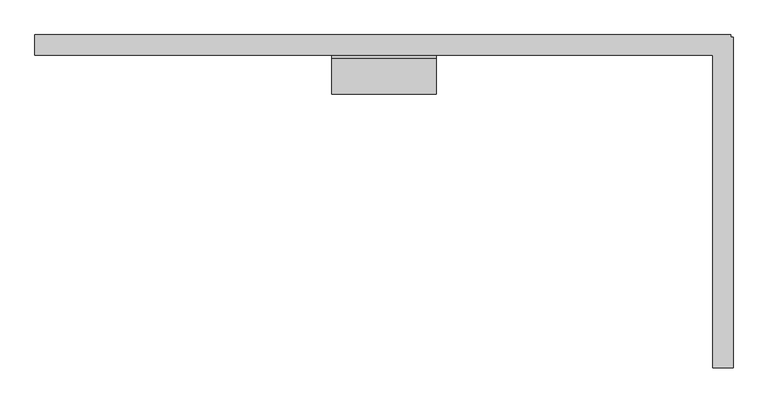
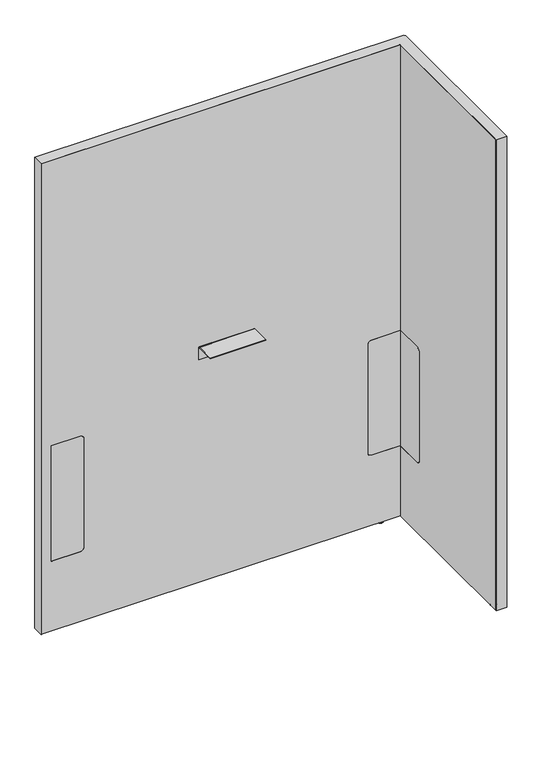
"""IFC4 building model written with IfcOpenShell, lengths in millimetres: furniture geometry, Steelcase - Answer Solution - Boundary Screen - L Return - Single Sided : 54H x 39W."""

import ifcopenshell
import ifcopenshell.guid

model = None  # the IFC model being written
_history = None  # IfcOwnerHistory: only IFC2X3 demands one
_inside = {}  # id of a spatial element -> (the spatial element, [elements in it])
_under = {}  # id of a project, library or spatial element -> (it, [spatial elements below it])
_declared = {}  # id of a project -> (the project, [libraries it declares])
_typed = {}  # id of a type object -> (the type object, [elements of that type])
_made_of = {}  # id of a material, layer set ... -> (it, [elements and type objects made of it])


def new_model(schema):
    """Start an empty IFC model of exactly this schema.

    Asked for "IFC4X3", IfcOpenShell would pick the latest addendum, in which some entities
    have other attributes; the version numbers below select the first issue.
    IFC2X3 requires an IfcOwnerHistory on every rooted entity: one is made here for all.
    """
    global model, _history
    if schema == "IFC4X3":
        model = ifcopenshell.file(schema_version=(4, 3, 0, 0))
    else:
        model = ifcopenshell.file(schema=schema)
    _inside.clear()
    _under.clear()
    _declared.clear()
    _typed.clear()
    _made_of.clear()
    _history = None
    if model.schema == "IFC2X3":
        org = make("IfcOrganization", Name="unknown")
        user = make(
            "IfcPersonAndOrganization",
            ThePerson=make("IfcPerson", FamilyName="unknown"),
            TheOrganization=org,
        )
        app = make(
            "IfcApplication",
            ApplicationDeveloper=org,
            Version="unknown",
            ApplicationFullName="unknown",
            ApplicationIdentifier="unknown",
        )
        _history = make(
            "IfcOwnerHistory",
            OwningUser=user,
            OwningApplication=app,
            ChangeAction="ADDED",
            CreationDate=0,
        )
    return model


def make(cls, **values):
    """One entity of the class cls with the attributes given. An attribute that is None is left unset."""
    return model.create_entity(
        cls, **{name: value for name, value in values.items() if value is not None}
    )


def rooted(cls, **values):
    """An entity with a GlobalId (a new one), such as an element, a storey or a relation."""
    return make(cls, GlobalId=ifcopenshell.guid.new(), OwnerHistory=_history, **values)


def si_unit(unit_type, name, prefix=None):
    """IfcSIUnit, for example si_unit("LENGTHUNIT", "METRE", prefix="MILLI")."""
    return make("IfcSIUnit", UnitType=unit_type, Prefix=prefix, Name=name)


def assignment(units):
    """IfcUnitAssignment: the units of a project."""
    return None if units is None else make("IfcUnitAssignment", Units=units)


def point(xyz):
    """IfcCartesianPoint."""
    return None if xyz is None else make("IfcCartesianPoint", Coordinates=xyz)


def direction(xyz):
    """IfcDirection."""
    return None if xyz is None else make("IfcDirection", DirectionRatios=xyz)


def frame(location, z_axis=None, x_axis=None):
    """IfcAxis2Placement3D, a coordinate frame: its origin and axes. An axis left out is left unset."""
    return make(
        "IfcAxis2Placement3D",
        Location=point(location),
        Axis=direction(z_axis),
        RefDirection=direction(x_axis),
    )


def frame_2d(location, x_axis=None):
    """IfcAxis2Placement2D, a coordinate frame in the plane: its origin and x axis."""
    return make(
        "IfcAxis2Placement2D", Location=point(location), RefDirection=direction(x_axis)
    )


def origin():
    """The frame at (0, 0, 0) with its axes left unset."""
    return frame((0.0, 0.0, 0.0))


def place(relative_to, where):
    """IfcLocalPlacement: puts the frame where relative to a parent placement (None: the world)."""
    return make(
        "IfcLocalPlacement", PlacementRelTo=relative_to, RelativePlacement=where
    )


def context(
    kind, dimensions, precision=None, world=None, true_north=None, identifier=None
):
    """IfcGeometricRepresentationContext, for example the 3D "Model" context."""
    return make(
        "IfcGeometricRepresentationContext",
        ContextIdentifier=identifier,
        ContextType=kind,
        CoordinateSpaceDimension=dimensions,
        Precision=precision,
        WorldCoordinateSystem=world,
        TrueNorth=true_north,
    )


def project(units=None, contexts=None):
    """IfcProject with its units and contexts."""
    return rooted(
        "IfcProject",
        Name="project",
        RepresentationContexts=contexts,
        UnitsInContext=assignment(units),
    )


def spatial(cls, under=None, at=None, **own):
    """A site, building, storey or space (cls), placed at a placement, below another one or the project."""
    s = rooted(cls, ObjectPlacement=at, **own)
    if under is not None:
        _under.setdefault(under.id(), (under, []))[1].append(s)
    return s


def polyline(points):
    """IfcPolyline through the points."""
    return make("IfcPolyline", Points=[point(p) for p in points])


def circle_curve(where, radius):
    """IfcCircle in the frame where."""
    return make("IfcCircle", Position=where, Radius=radius)


def ellipse_curve(where, semi_axis1, semi_axis2):
    """IfcEllipse in the frame where."""
    return make(
        "IfcEllipse", Position=where, SemiAxis1=semi_axis1, SemiAxis2=semi_axis2
    )


def trimmed(basis, trim1, trim2, sense, master):
    """IfcTrimmedCurve: the piece of a basis curve between two trims."""
    return make(
        "IfcTrimmedCurve",
        BasisCurve=basis,
        Trim1=trim1,
        Trim2=trim2,
        SenseAgreement=sense,
        MasterRepresentation=master,
    )


def segment(curve, same_sense, transition):
    """IfcCompositeCurveSegment."""
    return make(
        "IfcCompositeCurveSegment",
        Transition=transition,
        SameSense=same_sense,
        ParentCurve=curve,
    )


def composite_curve(segments, self_intersect=None):
    """IfcCompositeCurve: segments joined end to end."""
    return make("IfcCompositeCurve", Segments=segments, SelfIntersect=self_intersect)


def outline(outer, holes=None, kind="AREA"):
    """IfcArbitraryClosedProfileDef: a profile drawn as a closed curve; with holes, ...WithVoids."""
    if holes is None:
        return make("IfcArbitraryClosedProfileDef", ProfileType=kind, OuterCurve=outer)
    return make(
        "IfcArbitraryProfileDefWithVoids",
        ProfileType=kind,
        OuterCurve=outer,
        InnerCurves=holes,
    )


def extrude(swept, where, along, depth):
    """IfcExtrudedAreaSolid: the profile swept, set in the frame where, extruded along a direction by depth."""
    return make(
        "IfcExtrudedAreaSolid",
        SweptArea=swept,
        Position=where,
        ExtrudedDirection=direction(along),
        Depth=depth,
    )


def faces_of(points, faces, orient=None, outer=None):
    """IfcFace entities. A face is a list of loops; a loop is a list of indices into points, from 0.

    orient and outer hold one flag for each loop. By default every Orientation is true, the
    first loop of a face is its IfcFaceOuterBound and the others are IfcFaceBound.
    """
    made = []
    for i, loops in enumerate(faces):
        bounds = []
        for j, loop in enumerate(loops):
            is_outer = j == 0 if outer is None else outer[i][j]
            bounds.append(
                make(
                    "IfcFaceOuterBound" if is_outer else "IfcFaceBound",
                    Bound=make("IfcPolyLoop", Polygon=[points[k] for k in loop]),
                    Orientation=True if orient is None else orient[i][j],
                )
            )
        made.append(make("IfcFace", Bounds=bounds))
    return made


def faceted_brep(points, faces, orient=None, outer=None, voids=None):
    """IfcFacetedBrep: a solid bounded by flat faces; with voids (closed shells), ...WithVoids."""
    shared = [point(p) for p in points]
    hull = make("IfcClosedShell", CfsFaces=faces_of(shared, faces, orient, outer))
    if voids is None:
        return make("IfcFacetedBrep", Outer=hull)
    return make(
        "IfcFacetedBrepWithVoids",
        Outer=hull,
        Voids=[
            make(cls, CfsFaces=faces_of(shared, fs, o, b)) for cls, fs, o, b in voids
        ],
    )


def shape(context_of_items, identifier, shape_type, items):
    """IfcShapeRepresentation: the items that make up one representation, for example the "Body"."""
    return make(
        "IfcShapeRepresentation",
        ContextOfItems=context_of_items,
        RepresentationIdentifier=identifier,
        RepresentationType=shape_type,
        Items=items,
    )


def source(mapping_origin, context_of_items, identifier, shape_type, items):
    """IfcRepresentationMap: a shape defined once, which mapped items show again and again."""
    return make(
        "IfcRepresentationMap",
        MappingOrigin=mapping_origin,
        MappedRepresentation=shape(context_of_items, identifier, shape_type, items),
    )


def transform(
    local_origin,
    x_axis=None,
    y_axis=None,
    z_axis=None,
    scale=None,
    scale2=None,
    scale3=None,
    uniform=True,
):
    """IfcCartesianTransformationOperator3D, or its non-uniform kind. x_axis, y_axis, z_axis: its Axis1, 2, 3."""
    if uniform:
        return make(
            "IfcCartesianTransformationOperator3D",
            Axis1=direction(x_axis),
            Axis2=direction(y_axis),
            LocalOrigin=point(local_origin),
            Scale=scale,
            Axis3=direction(z_axis),
        )
    return make(
        "IfcCartesianTransformationOperator3DnonUniform",
        Axis1=direction(x_axis),
        Axis2=direction(y_axis),
        LocalOrigin=point(local_origin),
        Scale=scale,
        Axis3=direction(z_axis),
        Scale2=scale2,
        Scale3=scale3,
    )


def mapped(mapping_source, mapping_target):
    """IfcMappedItem: shows the shape of a source again, moved by a transform."""
    return make(
        "IfcMappedItem", MappingSource=mapping_source, MappingTarget=mapping_target
    )


def made_of(thing, what):
    """Note that an element or type object is made of a material, layer set ...; save() writes the relation."""
    if what is not None:
        _made_of.setdefault(what.id(), (what, []))[1].append(thing)
    return thing


def element(
    cls,
    number,
    at=None,
    inside=None,
    cuts=None,
    type_object=None,
    material=None,
    context=None,
    identifier="Body",
    shape_type=None,
    held_by="IfcProductDefinitionShape",
    body=None,
    shapes=None,
    **own,
):
    """One element of the class cls, such as IfcWall. Its Tag is "e" and its number.

    at: its placement. inside: the storey or other place that contains it. cuts: it is an
    opening in that element (IfcRelVoidsElement). A single representation is given by context,
    identifier, shape_type and body (its items); several are given by shapes. held_by: the class
    of the entity that holds the representations. save() writes the other relations.
    """
    e = rooted(cls, Tag="e%d" % number, ObjectPlacement=at, **own)
    if body is not None:
        shapes = [shape(context, identifier, shape_type, body)]
    if shapes is not None:
        e.Representation = make(held_by, Representations=shapes)
    if inside is not None:
        _inside.setdefault(inside.id(), (inside, []))[1].append(e)
    if cuts is not None:
        rooted(
            "IfcRelVoidsElement", RelatingBuildingElement=cuts, RelatedOpeningElement=e
        )
    if type_object is not None:
        _typed.setdefault(type_object.id(), (type_object, []))[1].append(e)
    return made_of(e, material)


def aggregate(whole, parts):
    """IfcRelAggregates: a whole, such as a stair, and the parts it consists of."""
    return rooted("IfcRelAggregates", RelatingObject=whole, RelatedObjects=parts)


def save(model, path):
    """Write the relations noted so far, then the file.

    IfcRelAggregates (storeys below a building ...), IfcRelContainedInSpatialStructure (elements
    in a storey), IfcRelDefinesByType, IfcRelAssociatesMaterial and IfcRelDeclares: one each for
    every whole, place, type object, material and project.
    """
    for whole, parts in _under.values():
        aggregate(whole, parts)
    for where, things in _inside.values():
        rooted(
            "IfcRelContainedInSpatialStructure",
            RelatedElements=things,
            RelatingStructure=where,
        )
    for kind, things in _typed.values():
        rooted("IfcRelDefinesByType", RelatedObjects=things, RelatingType=kind)
    for what, things in _made_of.values():
        rooted("IfcRelAssociatesMaterial", RelatedObjects=things, RelatingMaterial=what)
    for by, libraries in _declared.values():
        rooted("IfcRelDeclares", RelatingContext=by, RelatedDefinitions=libraries)
    model.write(path)


def plane_surface(at):
    """IfcPlane: the flat surface through the origin of the frame at, square to its z axis."""
    return make("IfcPlane", Position=at)


def cylinder_surface(at, radius):
    """IfcCylindricalSurface: all points at the distance radius from the z axis of the frame at."""
    return make("IfcCylindricalSurface", Position=at, Radius=radius)


def revolved_surface(curve, axis_point, axis_direction):
    """IfcSurfaceOfRevolution: the curve turned about the line through axis_point along axis_direction."""
    return make(
        "IfcSurfaceOfRevolution",
        SweptCurve=make("IfcArbitraryOpenProfileDef", ProfileType="CURVE", Curve=curve),
        AxisPosition=make("IfcAxis1Placement", Location=point(axis_point), Axis=direction(axis_direction)),
    )


def advanced_brep(points, edges, surfaces, faces):
    """IfcAdvancedBrep: a solid bounded by faces that lie on surfaces and meet in shared edges.

    An edge is (start, end): straight between two places in points (the first is 0);
    or (start, end, curve); or (start, end, curve, False) where it runs against its curve.
    A face is (place in surfaces, loops), or (place, loops, False) where it looks against
    its surface's normal. A loop lists edges by number (the first is 1), with a minus sign
    where the edge is run from its end to its start. The first loop is the outer one.
    """
    corners = [point(p) for p in points]
    vertices = [make("IfcVertexPoint", VertexGeometry=c) for c in corners]
    made = []
    for start, end, *more in edges:
        made.append(
            make(
                "IfcEdgeCurve",
                EdgeStart=vertices[start],
                EdgeEnd=vertices[end],
                EdgeGeometry=more[0] if more else make("IfcPolyline", Points=[corners[start], corners[end]]),
                SameSense=more[1] if len(more) > 1 else True,
            )
        )
    hull = []
    for where, loops, *sense in faces:
        bounds = []
        for j, loop in enumerate(loops):
            ring = [make("IfcOrientedEdge", EdgeElement=made[abs(k) - 1], Orientation=k > 0) for k in loop]
            bounds.append(
                make(
                    "IfcFaceOuterBound" if j == 0 else "IfcFaceBound",
                    Bound=make("IfcEdgeLoop", EdgeList=ring),
                    Orientation=True,
                )
            )
        hull.append(make("IfcAdvancedFace", Bounds=bounds, FaceSurface=surfaces[where], SameSense=sense[0] if sense else True))
    return make("IfcAdvancedBrep", Outer=make("IfcClosedShell", CfsFaces=hull))


def furniture_e7d60760(model_context):
    return source(origin(), model_context, "Body", "SolidModel", [
        extrude(outline(composite_curve([segment(polyline([(-109.3501471, 549.6162029), (-29.0550397, 549.6162029), (-29.0550397, 213.7762137), (-109.3501471, 213.7762137)]), True, "CONTINUOUS"), segment(trimmed(circle_curve(frame_2d((-109.3501471, 223.9362137)), 10.16), [point((-109.3501471, 213.7762137))], [point((-119.5101471, 223.9362137))], False, "CARTESIAN"), True, "CONTINUOUS"), segment(polyline([(-119.5101471, 223.9362137), (-119.5101471, 539.4562029)]), True, "CONTINUOUS"), segment(trimmed(circle_curve(frame_2d((-109.3501471, 539.4562029)), 10.16), [point((-119.5101471, 539.4562029))], [point((-109.3501471, 549.6162029))], False, "CARTESIAN"), True, "CONTINUOUS")], self_intersect=False)), frame((1220.4191891, 0.0, 0.0), z_axis=(1.0, 0.0, 0.0), x_axis=(0.0, 1.0, 0.0)), (0.0, 0.0, 1.0), 0.6401544),
        advanced_brep(
        [(1235.2672074, -448.0136072, 0.0), (1242.2216144, -448.0136072, 0.0), (1228.3128003, -448.0136072, 0.0), (1243.6762685, -448.0136072, 1.2700001), (1226.8581463, -448.0136072, 1.2700001), (1243.6762685, -448.0136072, 2.9673238), (1226.8581463, -448.0136072, 2.9673238), (1244.6427877, -448.0136072, 2.9673238), (1225.891627, -448.0136072, 2.9673238), (1244.6427877, -448.0136072, 9.9059849), (1225.891627, -448.0136072, 9.9059849), (1235.2672074, -448.0136072, 9.9059849)],
        [
            (0, 1),
            (1, 2, circle_curve(frame((1235.2672074, -448.0136072, 0.0), z_axis=(0.0, 0.0, -1.0), x_axis=(1.0, 0.0, 0.0)), 6.9544071)),
            (2, 0),
            (2, 1, circle_curve(frame((1235.2672074, -448.0136072, 0.0), z_axis=(0.0, 0.0, -1.0), x_axis=(1.0, 0.0, 0.0)), 6.9544071)),
            (1, 3, circle_curve(frame((1242.3945484, -448.0136072, 1.2700001), z_axis=(0.0, -1.0, 0.0), x_axis=(0.0, 0.0, 1.0)), 1.2817201)),
            (3, 4, circle_curve(frame((1235.2672074, -448.0136072, 1.2700001), z_axis=(0.0, 0.0, -1.0), x_axis=(1.0, 0.0, 0.0)), 8.4090611)),
            (4, 2, circle_curve(frame((1228.1398663, -448.0136072, 1.2700001), z_axis=(0.0, -1.0, 0.0), x_axis=(0.0, 0.0, 1.0)), 1.2817201)),
            (4, 3, circle_curve(frame((1235.2672074, -448.0136072, 1.2700001), z_axis=(0.0, 0.0, -1.0), x_axis=(1.0, 0.0, 0.0)), 8.4090611)),
            (3, 5),
            (5, 6, circle_curve(frame((1235.2672074, -448.0136072, 2.9673238), z_axis=(0.0, 0.0, -1.0), x_axis=(1.0, 0.0, 0.0)), 8.4090611)),
            (6, 4),
            (6, 5, circle_curve(frame((1235.2672074, -448.0136072, 2.9673238), z_axis=(0.0, 0.0, -1.0), x_axis=(1.0, 0.0, 0.0)), 8.4090611)),
            (5, 7),
            (7, 8, circle_curve(frame((1235.2672074, -448.0136072, 2.9673238), z_axis=(0.0, 0.0, -1.0), x_axis=(1.0, 0.0, 0.0)), 9.3755804)),
            (8, 6),
            (8, 7, circle_curve(frame((1235.2672074, -448.0136072, 2.9673238), z_axis=(0.0, 0.0, -1.0), x_axis=(1.0, 0.0, 0.0)), 9.3755804)),
            (7, 9),
            (9, 10, circle_curve(frame((1235.2672074, -448.0136072, 9.9059849), z_axis=(0.0, 0.0, -1.0), x_axis=(1.0, 0.0, 0.0)), 9.3755804)),
            (10, 8),
            (10, 9, circle_curve(frame((1235.2672074, -448.0136072, 9.9059849), z_axis=(0.0, 0.0, -1.0), x_axis=(1.0, 0.0, 0.0)), 9.3755804)),
            (9, 11),
            (11, 10),
        ],
        [
            plane_surface(frame((1235.2672074, -448.0136072, 0.0), z_axis=(0.0, 0.0, -1.0), x_axis=(1.0, 0.0, 0.0))),
            revolved_surface(trimmed(ellipse_curve(frame((1242.3945484, -448.0136072, 1.2700001), z_axis=(0.0, 1.0, 0.0), x_axis=(0.0, 0.0, 1.0)), 1.2817201, 1.2817201), [point((1243.6762685, -448.0136072, 1.2700001))], [point((1242.2216144, -448.0136072, 0.0))], True, "CARTESIAN"), (1235.2672074, -448.0136072, 9.9059849), (0.0, 0.0, -1.0)),
            cylinder_surface(frame((1235.2672074, -448.0136072, 9.9059849), z_axis=(0.0, 0.0, -1.0), x_axis=(1.0, 0.0, 0.0)), 8.4090611),
            plane_surface(frame((1235.2672074, -448.0136072, 2.9673238), z_axis=(0.0, 0.0, -1.0), x_axis=(1.0, 0.0, 0.0))),
            cylinder_surface(frame((1235.2672074, -448.0136072, 9.9059849), z_axis=(0.0, 0.0, -1.0), x_axis=(1.0, 0.0, 0.0)), 9.3755804),
            plane_surface(frame((1235.2672074, -448.0136072, 9.9059849), z_axis=(0.0, 0.0, 1.0), x_axis=(1.0, 0.0, 0.0))),
        ],
        [
            (0, [[1, 2, 3]]),
            (0, [[-3, 4, -1]]),
            (1, [[-2, 5, 6, 7]]),
            (1, [[-4, -7, 8, -5]]),
            (2, [[-6, 9, 10, 11]]),
            (2, [[-8, -11, 12, -9]]),
            (3, [[-10, 13, 14, 15]]),
            (3, [[-12, -15, 16, -13]]),
            (4, [[-14, 17, 18, 19]]),
            (4, [[-16, -19, 20, -17]]),
            (5, [[-18, 21, 22]]),
            (5, [[-20, -22, -21]]),
        ],
    ),
        faceted_brep([(1246.8531179, 0.0, 1382.522), (1246.8531179, 0.0, 9.9059849), (1245.8621491, 0.0, 9.9059849), (1245.8621491, 0.0, 1381.542118), (230.8097779, 0.0, 1381.542118), (230.8097779, 0.0, 9.9059849), (229.8191891, 0.0, 9.9059849), (229.8191891, 0.0, 1382.522), (229.8191891, -29.6898332, 1382.522), (229.8191891, -29.6898332, 9.9059849), (230.8097779, -29.6898332, 9.9059849), (230.8097779, -29.6898332, 1381.542118), (1220.4191891, -29.6898332, 1381.542118), (1220.4191891, -29.6898332, 1382.522), (1245.8621491, -29.6898332, 1381.542118), (1245.8621491, -29.6898332, 9.9059849), (1246.8531179, -29.6898332, 9.9059849), (1246.8531179, -29.6898332, 1381.542118), (1246.8531179, -3.2625916, 1382.522), (1246.8531179, -3.2625916, 9.9059849), (1246.8531179, -4.252647, 9.9059849), (1246.8531179, -4.252647, 1381.542118), (1250.1152256, -3.2625916, 9.9059849), (1250.1152256, -4.252647, 9.9059849), (1245.8621491, -4.252647, 9.9059849), (1220.4191891, -4.252647, 9.9059849), (1220.4191891, -3.2625916, 9.9059849), (1245.8621491, -3.2625916, 9.9059849), (1220.4191891, -486.8898332, 1382.522), (1250.1152256, -486.8898332, 1382.522), (1250.1152256, -3.2625916, 1382.522), (1245.8621491, -3.2625916, 1381.542118), (1245.8621491, -4.252647, 1381.542118), (1220.4191891, -3.2625916, 1381.542118), (1220.4191891, -4.252647, 1381.542118), (1250.1152256, -4.252647, 1381.542118), (1250.1152256, -485.899196, 1381.542118), (1220.4191891, -485.899196, 1381.542118), (1220.4191891, -485.899196, 9.9059849), (1220.4191891, -486.8898332, 9.9059849), (1250.1152256, -486.8898332, 9.9059849), (1250.1152256, -485.899196, 9.9059849)], [[[0, 1, 2, 3, 4, 5, 6, 7]], [[8, 9, 10, 11, 12, 13]], [[14, 15, 16, 17]], [[1, 0, 18, 19]], [[17, 16, 20, 21]], [[2, 1, 19, 22, 23, 20, 16, 15, 24, 25, 26, 27]], [[7, 6, 9, 8]], [[0, 7, 8, 13, 28, 29, 30, 18]], [[3, 2, 27, 31]], [[15, 14, 32, 24]], [[4, 3, 31, 33, 34, 32, 14, 17, 21, 35, 36, 37, 12, 11]], [[5, 4, 11, 10]], [[6, 5, 10, 9]], [[26, 25, 34, 33]], [[37, 38, 39, 28, 13, 12]], [[29, 40, 41, 36, 35, 23, 22, 30]], [[27, 26, 33, 31]], [[30, 22, 19, 18]], [[34, 25, 24, 32]], [[23, 35, 21, 20]], [[38, 37, 36, 41]], [[39, 38, 41, 40]], [[28, 39, 40, 29]]]),
        extrude(outline(composite_curve([segment(polyline([(-86.8398151, 696.4680019), (-86.8398151, 698.5), (-34.9450855, 698.5)]), True, "CONTINUOUS"), segment(trimmed(circle_curve(frame_2d((-34.9450855, 693.2447477)), 5.2552523), [point((-34.9450855, 698.5))], [point((-29.6898332, 693.2447477))], False, "CARTESIAN"), True, "CONTINUOUS"), segment(polyline([(-29.6898332, 693.2447477), (-29.6898332, 660.4), (-31.7218162, 660.4), (-31.7218162, 693.0058743)]), True, "CONTINUOUS"), segment(trimmed(circle_curve(frame_2d((-35.1839438, 693.0058743)), 3.4621276), [point((-31.7218162, 693.0058743))], [point((-35.1839438, 696.4680019))], True, "CARTESIAN"), True, "CONTINUOUS"), segment(polyline([(-35.1839438, 696.4680019), (-86.8398151, 696.4680019)]), True, "CONTINUOUS")], self_intersect=False)), frame((663.7685899, 0.0, 0.0), z_axis=(1.0, 0.0, 0.0), x_axis=(0.0, 1.0, 0.0)), (0.0, 0.0, 1.0), 152.4000969),
        advanced_brep(
        [(1172.9246853, -23.7588726, 9.9059849), (1172.9246853, -5.9309607, 9.9059849), (1172.9246853, -14.8449166, 9.9059849), (1172.9246853, -23.7588726, 2.9673238), (1172.9246853, -5.9309607, 2.9673238), (1172.9246853, -22.7915354, 2.9673238), (1172.9246853, -6.8982978, 2.9673238), (1172.9246853, -22.7915354, 1.6569081), (1172.9246853, -6.8982978, 1.6569081), (1172.9246853, -21.1346274, 0.0), (1172.9246853, -8.5552059, 0.0), (1172.9246853, -14.8449166, 0.0)],
        [
            (0, 1, circle_curve(frame((1172.9246853, -14.8449166, 9.9059849), z_axis=(0.0, 0.0, 1.0), x_axis=(0.0, 1.0, 0.0)), 8.913956)),
            (1, 2),
            (2, 0),
            (1, 0, circle_curve(frame((1172.9246853, -14.8449166, 9.9059849), z_axis=(0.0, 0.0, 1.0), x_axis=(0.0, 1.0, 0.0)), 8.913956)),
            (3, 4, circle_curve(frame((1172.9246853, -14.8449166, 2.9673238), z_axis=(0.0, 0.0, 1.0), x_axis=(0.0, 1.0, 0.0)), 8.913956)),
            (4, 1),
            (0, 3),
            (4, 3, circle_curve(frame((1172.9246853, -14.8449166, 2.9673238), z_axis=(0.0, 0.0, 1.0), x_axis=(0.0, 1.0, 0.0)), 8.913956)),
            (5, 6, circle_curve(frame((1172.9246853, -14.8449166, 2.9673238), z_axis=(0.0, 0.0, 1.0), x_axis=(0.0, 1.0, 0.0)), 7.9466188)),
            (6, 4),
            (3, 5),
            (6, 5, circle_curve(frame((1172.9246853, -14.8449166, 2.9673238), z_axis=(0.0, 0.0, 1.0), x_axis=(0.0, 1.0, 0.0)), 7.9466188)),
            (7, 8, circle_curve(frame((1172.9246853, -14.8449166, 1.6569081), z_axis=(0.0, 0.0, 1.0), x_axis=(0.0, 1.0, 0.0)), 7.9466188)),
            (8, 6),
            (5, 7),
            (8, 7, circle_curve(frame((1172.9246853, -14.8449166, 1.6569081), z_axis=(0.0, 0.0, 1.0), x_axis=(0.0, 1.0, 0.0)), 7.9466188)),
            (9, 10, circle_curve(frame((1172.9246853, -14.8449166, 0.0), z_axis=(0.0, 0.0, 1.0), x_axis=(0.0, 1.0, 0.0)), 6.2897107)),
            (10, 8, circle_curve(frame((1172.9246853, -8.5552059, 1.6569081), z_axis=(1.0, 0.0, 0.0), x_axis=(0.0, 1.0, 0.0)), 1.6569081)),
            (7, 9, circle_curve(frame((1172.9246853, -21.1346274, 1.6569081), z_axis=(1.0, 0.0, 0.0), x_axis=(0.0, -1.0, 0.0)), 1.6569081)),
            (10, 9, circle_curve(frame((1172.9246853, -14.8449166, 0.0), z_axis=(0.0, 0.0, 1.0), x_axis=(0.0, 1.0, 0.0)), 6.2897107)),
            (11, 10),
            (9, 11),
        ],
        [
            plane_surface(frame((1172.9246853, -14.8449166, 9.9059849), z_axis=(0.0, 0.0, 1.0), x_axis=(0.0, 1.0, 0.0))),
            cylinder_surface(frame((1172.9246853, -14.8449166, 9.9059849), z_axis=(0.0, 0.0, -1.0), x_axis=(0.0, 1.0, 0.0)), 8.913956),
            plane_surface(frame((1172.9246853, -14.8449166, 2.9673238), z_axis=(0.0, 0.0, -1.0), x_axis=(0.0, 1.0, 0.0))),
            cylinder_surface(frame((1172.9246853, -14.8449166, 9.9059849), z_axis=(0.0, 0.0, -1.0), x_axis=(0.0, 1.0, 0.0)), 7.9466188),
            revolved_surface(trimmed(ellipse_curve(frame((1172.9246853, -8.5552059, 1.6569081), z_axis=(-1.0, 0.0, 0.0), x_axis=(0.0, 1.0, 0.0)), 1.6569081, 1.6569081), [point((1172.9246853, -6.8982978, 1.6569081))], [point((1172.9246853, -8.5552059, 0.0))], True, "CARTESIAN"), (1172.9246853, -14.8449166, 9.9059849), (0.0, 0.0, -1.0)),
            plane_surface(frame((1172.9246853, -14.8449166, 0.0), z_axis=(0.0, 0.0, -1.0), x_axis=(0.0, 1.0, 0.0))),
        ],
        [
            (0, [[1, 2, 3]]),
            (0, [[4, -3, -2]]),
            (1, [[5, 6, -1, 7]]),
            (1, [[8, -7, -4, -6]]),
            (2, [[9, 10, -5, 11]]),
            (2, [[12, -11, -8, -10]]),
            (3, [[13, 14, -9, 15]]),
            (3, [[16, -15, -12, -14]]),
            (4, [[17, 18, -13, 19]]),
            (4, [[20, -19, -16, -18]]),
            (5, [[21, -17, 22]]),
            (5, [[-22, -20, -21]]),
        ],
    ),
        advanced_brep(
        [(230.8097779, 0.0, 1381.542118), (1245.8621491, 0.0, 1381.542118), (1245.8621491, 0.0, 9.9059849), (230.8097779, 0.0, 9.9059849), (347.9483813, -29.0550397, 539.4562029), (337.7883813, -29.0550397, 549.6162029), (258.1344836, -29.0550397, 549.6162029), (258.1344836, -29.0550397, 213.7762137), (337.7883813, -29.0550397, 213.7762137), (347.9483813, -29.0550397, 223.9362137), (1221.0593435, -29.0550397, 213.7762137), (1221.0593435, -29.0550397, 549.6162029), (1140.5109268, -29.0550397, 549.6162029), (1130.3509268, -29.0550397, 539.4562029), (1130.3509268, -29.0550397, 223.9362137), (1140.5109268, -29.0550397, 213.7762137), (230.8097779, -29.6898332, 1381.542118), (230.8097779, -29.6898332, 9.9059849), (1220.4191891, -29.6898332, 9.9059849), (1220.4191891, -29.6898332, 213.7762137), (1140.5109268, -29.6898332, 213.7762137), (1130.3509268, -29.6898332, 223.9362137), (1130.3509268, -29.6898332, 539.4562029), (1140.5109268, -29.6898332, 549.6162029), (1220.4191891, -29.6898332, 549.6162029), (1220.4191891, -29.6898332, 1381.542118), (337.7883813, -29.6898332, 549.6162029), (347.9483813, -29.6898332, 539.4562029), (347.9483813, -29.6898332, 223.9362137), (337.7883813, -29.6898332, 213.7762137), (258.1344836, -29.6898332, 213.7762137), (258.1344836, -29.6898332, 549.6162029), (1245.8621491, -4.252647, 9.9059849), (1250.1152256, -4.252647, 9.9059849), (1250.1152256, -485.899196, 9.9059849), (1220.4191891, -485.899196, 9.9059849), (1245.8621491, -4.252647, 1381.542118), (1220.4191891, -485.899196, 1381.542118), (1250.1152256, -485.899196, 1381.542118), (1250.1152256, -4.252647, 1381.542118), (1221.0593435, -109.3501471, 549.6162029), (1220.4191891, -109.3501471, 549.6162029), (1221.0593435, -109.3501471, 213.7762137), (1221.0593435, -119.5101471, 223.9362137), (1221.0593435, -119.5101471, 539.4562029), (1220.4191891, -109.3501471, 213.7762137), (1220.4191891, -119.5101471, 539.4562029), (1220.4191891, -119.5101471, 223.9362137)],
        [
            (0, 1),
            (1, 2),
            (2, 3),
            (3, 0),
            (4, 5, circle_curve(frame((337.7883813, -29.0550397, 539.4562029), z_axis=(0.0, -1.0, 0.0), x_axis=(0.0, 0.0, 1.0)), 10.16)),
            (5, 6),
            (6, 7),
            (7, 8),
            (8, 9, circle_curve(frame((337.7883813, -29.0550397, 223.9362137), z_axis=(0.0, -1.0, 0.0), x_axis=(0.0, 0.0, 1.0)), 10.16)),
            (9, 4),
            (10, 11),
            (11, 12),
            (12, 13, circle_curve(frame((1140.5109268, -29.0550397, 539.4562029), z_axis=(0.0, -1.0, 0.0), x_axis=(0.0, 0.0, 1.0)), 10.16)),
            (13, 14),
            (14, 15, circle_curve(frame((1140.5109268, -29.0550397, 223.9362137), z_axis=(0.0, -1.0, 0.0), x_axis=(0.0, 0.0, 1.0)), 10.16)),
            (15, 10),
            (16, 17),
            (17, 18),
            (18, 19),
            (19, 20),
            (20, 21, circle_curve(frame((1140.5109268, -29.6898332, 223.9362137), z_axis=(0.0, 1.0, 0.0), x_axis=(0.0, 0.0, 1.0)), 10.16)),
            (21, 22),
            (22, 23, circle_curve(frame((1140.5109268, -29.6898332, 539.4562029), z_axis=(0.0, 1.0, 0.0), x_axis=(0.0, 0.0, 1.0)), 10.16)),
            (23, 24),
            (24, 25),
            (25, 16),
            (26, 27, circle_curve(frame((337.7883813, -29.6898332, 539.4562029), z_axis=(0.0, 1.0, 0.0), x_axis=(0.0, 0.0, 1.0)), 10.16)),
            (27, 28),
            (28, 29, circle_curve(frame((337.7883813, -29.6898332, 223.9362137), z_axis=(0.0, 1.0, 0.0), x_axis=(0.0, 0.0, 1.0)), 10.16)),
            (29, 30),
            (30, 31),
            (31, 26),
            (16, 0),
            (3, 17),
            (2, 32),
            (32, 33),
            (33, 34),
            (34, 35),
            (35, 18),
            (1, 36),
            (36, 32),
            (25, 37),
            (37, 38),
            (38, 39),
            (39, 36),
            (26, 5),
            (4, 27),
            (9, 28),
            (8, 29),
            (7, 30),
            (6, 31),
            (11, 40),
            (40, 41),
            (41, 24),
            (23, 12),
            (42, 43, circle_curve(frame((1221.0593435, -109.3501471, 223.9362137), z_axis=(-1.0, 0.0, 0.0), x_axis=(0.0, 1.0, 0.0)), 10.16)),
            (43, 44),
            (44, 40, circle_curve(frame((1221.0593435, -109.3501471, 539.4562029), z_axis=(-1.0, 0.0, 0.0), x_axis=(0.0, 1.0, 0.0)), 10.16)),
            (10, 42),
            (15, 20),
            (19, 45),
            (45, 42),
            (14, 21),
            (13, 22),
            (35, 37),
            (41, 46, circle_curve(frame((1220.4191891, -109.3501471, 539.4562029), z_axis=(1.0, 0.0, 0.0), x_axis=(0.0, 1.0, 0.0)), 10.16)),
            (46, 47),
            (47, 45, circle_curve(frame((1220.4191891, -109.3501471, 223.9362137), z_axis=(1.0, 0.0, 0.0), x_axis=(0.0, 1.0, 0.0)), 10.16)),
            (38, 34),
            (33, 39),
            (44, 46),
            (43, 47),
        ],
        [
            plane_surface(frame((347.9483813, 0.0, 549.6162029), z_axis=(0.0, 1.0, 0.0), x_axis=(0.0, 0.0, -1.0))),
            plane_surface(frame((347.9483813, -29.0550397, 549.6162029), z_axis=(0.0, -1.0, 0.0), x_axis=(0.0, 0.0, 1.0))),
            plane_surface(frame((1245.8621491, -29.6898332, 1381.542118), z_axis=(0.0, -1.0, 0.0), x_axis=(-1.0, 0.0, 0.0))),
            plane_surface(frame((230.8097779, 0.0, 9.9059849), z_axis=(-1.0, 0.0, 0.0), x_axis=(0.0, -1.0, 0.0))),
            plane_surface(frame((1245.8621491, 0.0, 9.9059849), z_axis=(0.0, 0.0, -1.0), x_axis=(0.0, -1.0, 0.0))),
            plane_surface(frame((1245.8621491, 0.0, 1381.542118), z_axis=(1.0, 0.0, 0.0), x_axis=(0.0, -1.0, 0.0))),
            plane_surface(frame((230.8097779, 0.0, 1381.542118), z_axis=(0.0, 0.0, 1.0), x_axis=(0.0, -1.0, 0.0))),
            revolved_surface(polyline([(337.7883813, -29.6898332, 549.6162029), (337.7883813, -29.0550397, 549.6162029)]), (337.7883813, -29.6898332, 539.4562029), (0.0, -1.0, 0.0)),
            plane_surface(frame((347.9483813, 0.0, 223.9362137), z_axis=(-1.0, 0.0, 0.0), x_axis=(0.0, -1.0, 0.0))),
            revolved_surface(polyline([(337.7883813, -29.6898332, 234.0962137), (337.7883813, -29.0550397, 234.0962137)]), (337.7883813, -29.6898332, 223.9362137), (0.0, -1.0, 0.0)),
            plane_surface(frame((258.1344836, 0.0, 213.7762137), z_axis=(0.0, 0.0, 1.0), x_axis=(0.0, -1.0, 0.0))),
            plane_surface(frame((258.1344836, 0.0, 549.6162029), z_axis=(1.0, 0.0, 0.0), x_axis=(0.0, -1.0, 0.0))),
            plane_surface(frame((337.7883813, 0.0, 549.6162029), z_axis=(0.0, 0.0, -1.0), x_axis=(0.0, -1.0, 0.0))),
            plane_surface(frame((1221.0593435, 0.0, 549.6162029), z_axis=(0.0, 0.0, -1.0), x_axis=(0.0, -1.0, 0.0))),
            plane_surface(frame((1221.0593435, 0.0, 213.7762137), z_axis=(-1.0, 0.0, 0.0), x_axis=(0.0, -1.0, 0.0))),
            plane_surface(frame((1140.5109268, 0.0, 213.7762137), z_axis=(0.0, 0.0, 1.0), x_axis=(0.0, -1.0, 0.0))),
            revolved_surface(polyline([(1140.5109268, -29.6898332, 234.0962137), (1140.5109268, -29.0550397, 234.0962137)]), (1140.5109268, -29.6898332, 223.9362137), (0.0, -1.0, 0.0)),
            plane_surface(frame((1130.3509268, 0.0, 539.4562029), z_axis=(1.0, 0.0, 0.0), x_axis=(0.0, -1.0, 0.0))),
            revolved_surface(polyline([(1140.5109268, -29.6898332, 549.6162029), (1140.5109268, -29.0550397, 549.6162029)]), (1140.5109268, -29.6898332, 539.4562029), (0.0, -1.0, 0.0)),
            plane_surface(frame((1220.4191891, -485.899196, 1381.542118), z_axis=(-1.0, 0.0, 0.0), x_axis=(0.0, 0.0, 1.0))),
            plane_surface(frame((1250.1152256, -485.899196, 1381.542118), z_axis=(1.0, 0.0, 0.0), x_axis=(0.0, 0.0, -1.0))),
            plane_surface(frame((1250.1152256, -4.252647, 9.9059849), z_axis=(0.0, 1.0, 0.0), x_axis=(-1.0, 0.0, 0.0))),
            plane_surface(frame((1250.1152256, -485.899196, 1381.542118), z_axis=(0.0, -1.0, 0.0), x_axis=(-1.0, 0.0, 0.0))),
            revolved_surface(polyline([(1220.4191891, -99.1901471, 539.4562029), (1221.0593435, -99.1901471, 539.4562029)]), (-340.6902705, -109.3501471, 539.4562029), (-1.0, 0.0, 0.0)),
            plane_surface(frame((1250.1152256, -119.5101471, 223.9362137), z_axis=(0.0, 1.0, 0.0), x_axis=(-1.0, 0.0, 0.0))),
            revolved_surface(polyline([(1220.4191891, -99.1901471, 223.9362137), (1221.0593435, -99.1901471, 223.9362137)]), (-340.6902705, -109.3501471, 223.9362137), (-1.0, 0.0, 0.0)),
        ],
        [
            (0, [[1, 2, 3, 4]]),
            (1, [[5, 6, 7, 8, 9, 10]]),
            (1, [[11, 12, 13, 14, 15, 16]]),
            (2, [[17, 18, 19, 20, 21, 22, 23, 24, 25, 26], [27, 28, 29, 30, 31, 32]]),
            (3, [[-17, 33, -4, 34]]),
            (4, [[-3, 35, 36, 37, 38, 39, -18, -34]]),
            (5, [[-2, 40, 41, -35]]),
            (6, [[-1, -33, -26, 42, 43, 44, 45, -40]]),
            (7, [[-27, 46, -5, 47]]),
            (8, [[-28, -47, -10, 48]]),
            (9, [[-29, -48, -9, 49]]),
            (10, [[-30, -49, -8, 50]]),
            (11, [[-31, -50, -7, 51]]),
            (12, [[-32, -51, -6, -46]]),
            (13, [[52, 53, 54, -24, 55, -12]]),
            (14, [[56, 57, 58, -52, -11, 59]]),
            (15, [[-59, -16, 60, -20, 61, 62]]),
            (16, [[-21, -60, -15, 63]]),
            (17, [[-22, -63, -14, 64]]),
            (18, [[-23, -64, -13, -55]]),
            (19, [[65, -42, -25, -54, 66, 67, 68, -61, -19, -39]]),
            (20, [[69, -37, 70, -44]]),
            (21, [[-70, -36, -41, -45]]),
            (22, [[-65, -38, -69, -43]]),
            (23, [[-66, -53, -58, 71]]),
            (24, [[-67, -71, -57, 72]]),
            (25, [[-68, -72, -56, -62]]),
        ],
    ),
        extrude(outline(composite_curve([segment(polyline([(549.6162029, 337.7883813), (549.6162029, 258.1344836), (213.7762137, 258.1344836), (213.7762137, 337.7883813)]), True, "CONTINUOUS"), segment(trimmed(circle_curve(frame_2d((223.9362137, 337.7883813)), 10.16), [point((213.7762137, 337.7883813))], [point((223.9362137, 347.9483813))], False, "CARTESIAN"), True, "CONTINUOUS"), segment(polyline([(223.9362137, 347.9483813), (539.4562029, 347.9483813)]), True, "CONTINUOUS"), segment(trimmed(circle_curve(frame_2d((539.4562029, 337.7883813)), 10.16), [point((539.4562029, 347.9483813))], [point((549.6162029, 337.7883813))], False, "CARTESIAN"), True, "CONTINUOUS")], self_intersect=False)), frame((0.0, -29.6898332, 0.0), z_axis=(0.0, 1.0, 0.0), x_axis=(0.0, 0.0, 1.0)), (0.0, 0.0, 1.0), 0.6347935),
        extrude(outline(composite_curve([segment(trimmed(circle_curve(frame_2d((539.4562029, 1140.5109268)), 10.16), [point((549.6162029, 1140.5109268))], [point((539.4562029, 1130.3509268))], False, "CARTESIAN"), True, "CONTINUOUS"), segment(polyline([(539.4562029, 1130.3509268), (223.9362137, 1130.3509268)]), True, "CONTINUOUS"), segment(trimmed(circle_curve(frame_2d((223.9362137, 1140.5109268)), 10.16), [point((223.9362137, 1130.3509268))], [point((213.7762137, 1140.5109268))], False, "CARTESIAN"), True, "CONTINUOUS"), segment(polyline([(213.7762137, 1140.5109268), (213.7762137, 1220.4191891), (549.6162029, 1220.4191891), (549.6162029, 1140.5109268)]), True, "CONTINUOUS")], self_intersect=False)), frame((0.0, -29.6898332, 0.0), z_axis=(0.0, 1.0, 0.0), x_axis=(0.0, 0.0, 1.0)), (0.0, 0.0, 1.0), 0.6347935),
    ])


if __name__ == "__main__":
    model = new_model("IFC4")
    model_context = context("Model", 3, world=origin())
    ifc_project = project(units=[si_unit("LENGTHUNIT", "METRE", prefix="MILLI")], contexts=[model_context])
    site = spatial("IfcSite", under=ifc_project)
    building = spatial("IfcBuilding", under=site)
    placement = place(None, origin())
    furniture_shape = furniture_e7d60760(model_context)
    element("IfcFurniture", 1, ObjectType="Steelcase - Answer Solution - Boundary Screen - L Return - Single Sided : 54H x 39W", at=placement, inside=building, context=model_context, shape_type="MappedRepresentation", body=[
        mapped(furniture_shape, transform((0.0, 0.0, 0.0), x_axis=(1.0, 0.0, 0.0), y_axis=(0.0, 1.0, 0.0), z_axis=(0.0, 0.0, 1.0))),
    ])
    save(model, "model.ifc")
